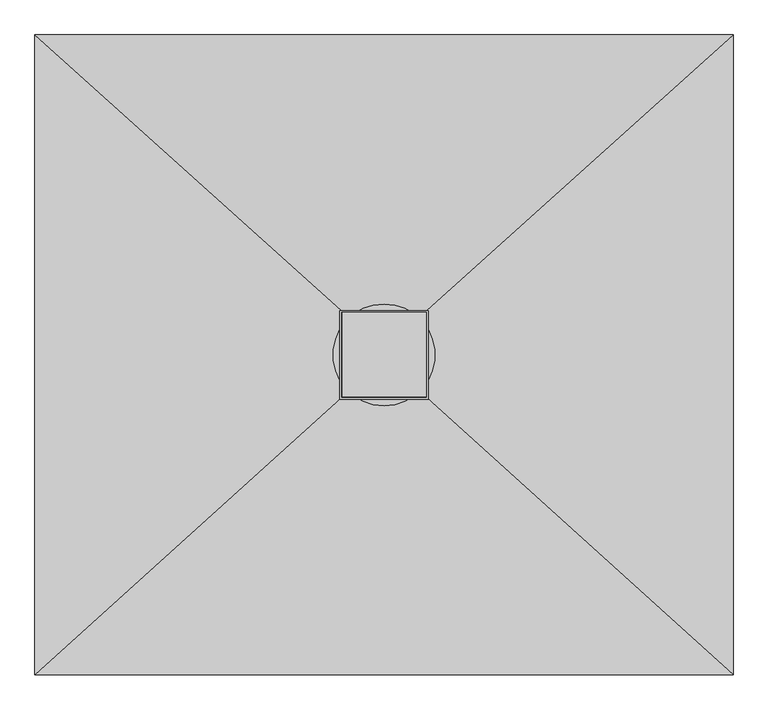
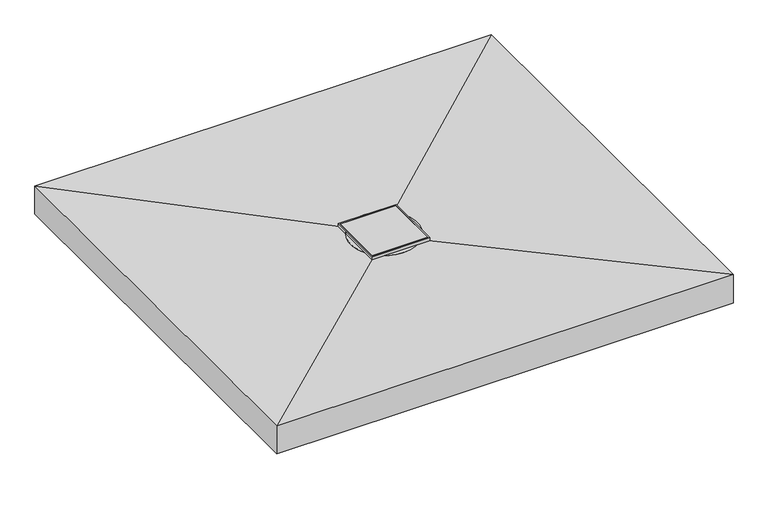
"""IFC4 building model written with IfcOpenShell, lengths in millimetres: sanitary terminal geometry, NLRS_PF_52_UN_Showerboard Aqua Brilliant_Easydrain : Aqua Brilliant onderuitloop 50mm."""

import ifcopenshell
import ifcopenshell.guid

model = None  # the IFC model being written
_history = None  # IfcOwnerHistory: only IFC2X3 demands one
_inside = {}  # id of a spatial element -> (the spatial element, [elements in it])
_under = {}  # id of a project, library or spatial element -> (it, [spatial elements below it])
_declared = {}  # id of a project -> (the project, [libraries it declares])
_typed = {}  # id of a type object -> (the type object, [elements of that type])
_made_of = {}  # id of a material, layer set ... -> (it, [elements and type objects made of it])


def new_model(schema):
    """Start an empty IFC model of exactly this schema.

    Asked for "IFC4X3", IfcOpenShell would pick the latest addendum, in which some entities
    have other attributes; the version numbers below select the first issue.
    IFC2X3 requires an IfcOwnerHistory on every rooted entity: one is made here for all.
    """
    global model, _history
    if schema == "IFC4X3":
        model = ifcopenshell.file(schema_version=(4, 3, 0, 0))
    else:
        model = ifcopenshell.file(schema=schema)
    _inside.clear()
    _under.clear()
    _declared.clear()
    _typed.clear()
    _made_of.clear()
    _history = None
    if model.schema == "IFC2X3":
        org = make("IfcOrganization", Name="unknown")
        user = make(
            "IfcPersonAndOrganization",
            ThePerson=make("IfcPerson", FamilyName="unknown"),
            TheOrganization=org,
        )
        app = make(
            "IfcApplication",
            ApplicationDeveloper=org,
            Version="unknown",
            ApplicationFullName="unknown",
            ApplicationIdentifier="unknown",
        )
        _history = make(
            "IfcOwnerHistory",
            OwningUser=user,
            OwningApplication=app,
            ChangeAction="ADDED",
            CreationDate=0,
        )
    return model


def make(cls, **values):
    """One entity of the class cls with the attributes given. An attribute that is None is left unset."""
    return model.create_entity(
        cls, **{name: value for name, value in values.items() if value is not None}
    )


def rooted(cls, **values):
    """An entity with a GlobalId (a new one), such as an element, a storey or a relation."""
    return make(cls, GlobalId=ifcopenshell.guid.new(), OwnerHistory=_history, **values)


def si_unit(unit_type, name, prefix=None):
    """IfcSIUnit, for example si_unit("LENGTHUNIT", "METRE", prefix="MILLI")."""
    return make("IfcSIUnit", UnitType=unit_type, Prefix=prefix, Name=name)


def assignment(units):
    """IfcUnitAssignment: the units of a project."""
    return None if units is None else make("IfcUnitAssignment", Units=units)


def point(xyz):
    """IfcCartesianPoint."""
    return None if xyz is None else make("IfcCartesianPoint", Coordinates=xyz)


def direction(xyz):
    """IfcDirection."""
    return None if xyz is None else make("IfcDirection", DirectionRatios=xyz)


def frame(location, z_axis=None, x_axis=None):
    """IfcAxis2Placement3D, a coordinate frame: its origin and axes. An axis left out is left unset."""
    return make(
        "IfcAxis2Placement3D",
        Location=point(location),
        Axis=direction(z_axis),
        RefDirection=direction(x_axis),
    )


def frame_2d(location, x_axis=None):
    """IfcAxis2Placement2D, a coordinate frame in the plane: its origin and x axis."""
    return make(
        "IfcAxis2Placement2D", Location=point(location), RefDirection=direction(x_axis)
    )


def origin():
    """The frame at (0, 0, 0) with its axes left unset."""
    return frame((0.0, 0.0, 0.0))


def origin_2d():
    """The frame at (0, 0) in the plane with its x axis left unset."""
    return frame_2d((0.0, 0.0))


def place(relative_to, where):
    """IfcLocalPlacement: puts the frame where relative to a parent placement (None: the world)."""
    return make(
        "IfcLocalPlacement", PlacementRelTo=relative_to, RelativePlacement=where
    )


def context(
    kind, dimensions, precision=None, world=None, true_north=None, identifier=None
):
    """IfcGeometricRepresentationContext, for example the 3D "Model" context."""
    return make(
        "IfcGeometricRepresentationContext",
        ContextIdentifier=identifier,
        ContextType=kind,
        CoordinateSpaceDimension=dimensions,
        Precision=precision,
        WorldCoordinateSystem=world,
        TrueNorth=true_north,
    )


def project(units=None, contexts=None):
    """IfcProject with its units and contexts."""
    return rooted(
        "IfcProject",
        Name="project",
        RepresentationContexts=contexts,
        UnitsInContext=assignment(units),
    )


def spatial(cls, under=None, at=None, **own):
    """A site, building, storey or space (cls), placed at a placement, below another one or the project."""
    s = rooted(cls, ObjectPlacement=at, **own)
    if under is not None:
        _under.setdefault(under.id(), (under, []))[1].append(s)
    return s


def polyline(points):
    """IfcPolyline through the points."""
    return make("IfcPolyline", Points=[point(p) for p in points])


def circle_curve(where, radius):
    """IfcCircle in the frame where."""
    return make("IfcCircle", Position=where, Radius=radius)


def trimmed(basis, trim1, trim2, sense, master):
    """IfcTrimmedCurve: the piece of a basis curve between two trims."""
    return make(
        "IfcTrimmedCurve",
        BasisCurve=basis,
        Trim1=trim1,
        Trim2=trim2,
        SenseAgreement=sense,
        MasterRepresentation=master,
    )


def segment(curve, same_sense, transition):
    """IfcCompositeCurveSegment."""
    return make(
        "IfcCompositeCurveSegment",
        Transition=transition,
        SameSense=same_sense,
        ParentCurve=curve,
    )


def composite_curve(segments, self_intersect=None):
    """IfcCompositeCurve: segments joined end to end."""
    return make("IfcCompositeCurve", Segments=segments, SelfIntersect=self_intersect)


def outline(outer, holes=None, kind="AREA"):
    """IfcArbitraryClosedProfileDef: a profile drawn as a closed curve; with holes, ...WithVoids."""
    if holes is None:
        return make("IfcArbitraryClosedProfileDef", ProfileType=kind, OuterCurve=outer)
    return make(
        "IfcArbitraryProfileDefWithVoids",
        ProfileType=kind,
        OuterCurve=outer,
        InnerCurves=holes,
    )


def extrude(swept, where, along, depth):
    """IfcExtrudedAreaSolid: the profile swept, set in the frame where, extruded along a direction by depth."""
    return make(
        "IfcExtrudedAreaSolid",
        SweptArea=swept,
        Position=where,
        ExtrudedDirection=direction(along),
        Depth=depth,
    )


def faces_of(points, faces, orient=None, outer=None):
    """IfcFace entities. A face is a list of loops; a loop is a list of indices into points, from 0.

    orient and outer hold one flag for each loop. By default every Orientation is true, the
    first loop of a face is its IfcFaceOuterBound and the others are IfcFaceBound.
    """
    made = []
    for i, loops in enumerate(faces):
        bounds = []
        for j, loop in enumerate(loops):
            is_outer = j == 0 if outer is None else outer[i][j]
            bounds.append(
                make(
                    "IfcFaceOuterBound" if is_outer else "IfcFaceBound",
                    Bound=make("IfcPolyLoop", Polygon=[points[k] for k in loop]),
                    Orientation=True if orient is None else orient[i][j],
                )
            )
        made.append(make("IfcFace", Bounds=bounds))
    return made


def faceted_brep(points, faces, orient=None, outer=None, voids=None):
    """IfcFacetedBrep: a solid bounded by flat faces; with voids (closed shells), ...WithVoids."""
    shared = [point(p) for p in points]
    hull = make("IfcClosedShell", CfsFaces=faces_of(shared, faces, orient, outer))
    if voids is None:
        return make("IfcFacetedBrep", Outer=hull)
    return make(
        "IfcFacetedBrepWithVoids",
        Outer=hull,
        Voids=[
            make(cls, CfsFaces=faces_of(shared, fs, o, b)) for cls, fs, o, b in voids
        ],
    )


def shape(context_of_items, identifier, shape_type, items):
    """IfcShapeRepresentation: the items that make up one representation, for example the "Body"."""
    return make(
        "IfcShapeRepresentation",
        ContextOfItems=context_of_items,
        RepresentationIdentifier=identifier,
        RepresentationType=shape_type,
        Items=items,
    )


def source(mapping_origin, context_of_items, identifier, shape_type, items):
    """IfcRepresentationMap: a shape defined once, which mapped items show again and again."""
    return make(
        "IfcRepresentationMap",
        MappingOrigin=mapping_origin,
        MappedRepresentation=shape(context_of_items, identifier, shape_type, items),
    )


def transform(
    local_origin,
    x_axis=None,
    y_axis=None,
    z_axis=None,
    scale=None,
    scale2=None,
    scale3=None,
    uniform=True,
):
    """IfcCartesianTransformationOperator3D, or its non-uniform kind. x_axis, y_axis, z_axis: its Axis1, 2, 3."""
    if uniform:
        return make(
            "IfcCartesianTransformationOperator3D",
            Axis1=direction(x_axis),
            Axis2=direction(y_axis),
            LocalOrigin=point(local_origin),
            Scale=scale,
            Axis3=direction(z_axis),
        )
    return make(
        "IfcCartesianTransformationOperator3DnonUniform",
        Axis1=direction(x_axis),
        Axis2=direction(y_axis),
        LocalOrigin=point(local_origin),
        Scale=scale,
        Axis3=direction(z_axis),
        Scale2=scale2,
        Scale3=scale3,
    )


def mapped(mapping_source, mapping_target):
    """IfcMappedItem: shows the shape of a source again, moved by a transform."""
    return make(
        "IfcMappedItem", MappingSource=mapping_source, MappingTarget=mapping_target
    )


def made_of(thing, what):
    """Note that an element or type object is made of a material, layer set ...; save() writes the relation."""
    if what is not None:
        _made_of.setdefault(what.id(), (what, []))[1].append(thing)
    return thing


def element(
    cls,
    number,
    at=None,
    inside=None,
    cuts=None,
    type_object=None,
    material=None,
    context=None,
    identifier="Body",
    shape_type=None,
    held_by="IfcProductDefinitionShape",
    body=None,
    shapes=None,
    **own,
):
    """One element of the class cls, such as IfcWall. Its Tag is "e" and its number.

    at: its placement. inside: the storey or other place that contains it. cuts: it is an
    opening in that element (IfcRelVoidsElement). A single representation is given by context,
    identifier, shape_type and body (its items); several are given by shapes. held_by: the class
    of the entity that holds the representations. save() writes the other relations.
    """
    e = rooted(cls, Tag="e%d" % number, ObjectPlacement=at, **own)
    if body is not None:
        shapes = [shape(context, identifier, shape_type, body)]
    if shapes is not None:
        e.Representation = make(held_by, Representations=shapes)
    if inside is not None:
        _inside.setdefault(inside.id(), (inside, []))[1].append(e)
    if cuts is not None:
        rooted(
            "IfcRelVoidsElement", RelatingBuildingElement=cuts, RelatedOpeningElement=e
        )
    if type_object is not None:
        _typed.setdefault(type_object.id(), (type_object, []))[1].append(e)
    return made_of(e, material)


def aggregate(whole, parts):
    """IfcRelAggregates: a whole, such as a stair, and the parts it consists of."""
    return rooted("IfcRelAggregates", RelatingObject=whole, RelatedObjects=parts)


def save(model, path):
    """Write the relations noted so far, then the file.

    IfcRelAggregates (storeys below a building ...), IfcRelContainedInSpatialStructure (elements
    in a storey), IfcRelDefinesByType, IfcRelAssociatesMaterial and IfcRelDeclares: one each for
    every whole, place, type object, material and project.
    """
    for whole, parts in _under.values():
        aggregate(whole, parts)
    for where, things in _inside.values():
        rooted(
            "IfcRelContainedInSpatialStructure",
            RelatedElements=things,
            RelatingStructure=where,
        )
    for kind, things in _typed.values():
        rooted("IfcRelDefinesByType", RelatedObjects=things, RelatingType=kind)
    for what, things in _made_of.values():
        rooted("IfcRelAssociatesMaterial", RelatedObjects=things, RelatingMaterial=what)
    for by, libraries in _declared.values():
        rooted("IfcRelDeclares", RelatingContext=by, RelatedDefinitions=libraries)
    model.write(path)


def plane_surface(at):
    """IfcPlane: the flat surface through the origin of the frame at, square to its z axis."""
    return make("IfcPlane", Position=at)


def cylinder_surface(at, radius):
    """IfcCylindricalSurface: all points at the distance radius from the z axis of the frame at."""
    return make("IfcCylindricalSurface", Position=at, Radius=radius)


def revolved_surface(curve, axis_point, axis_direction):
    """IfcSurfaceOfRevolution: the curve turned about the line through axis_point along axis_direction."""
    return make(
        "IfcSurfaceOfRevolution",
        SweptCurve=make("IfcArbitraryOpenProfileDef", ProfileType="CURVE", Curve=curve),
        AxisPosition=make("IfcAxis1Placement", Location=point(axis_point), Axis=direction(axis_direction)),
    )


def advanced_brep(points, edges, surfaces, faces):
    """IfcAdvancedBrep: a solid bounded by faces that lie on surfaces and meet in shared edges.

    An edge is (start, end): straight between two places in points (the first is 0);
    or (start, end, curve); or (start, end, curve, False) where it runs against its curve.
    A face is (place in surfaces, loops), or (place, loops, False) where it looks against
    its surface's normal. A loop lists edges by number (the first is 1), with a minus sign
    where the edge is run from its end to its start. The first loop is the outer one.
    """
    corners = [point(p) for p in points]
    vertices = [make("IfcVertexPoint", VertexGeometry=c) for c in corners]
    made = []
    for start, end, *more in edges:
        made.append(
            make(
                "IfcEdgeCurve",
                EdgeStart=vertices[start],
                EdgeEnd=vertices[end],
                EdgeGeometry=more[0] if more else make("IfcPolyline", Points=[corners[start], corners[end]]),
                SameSense=more[1] if len(more) > 1 else True,
            )
        )
    hull = []
    for where, loops, *sense in faces:
        bounds = []
        for j, loop in enumerate(loops):
            ring = [make("IfcOrientedEdge", EdgeElement=made[abs(k) - 1], Orientation=k > 0) for k in loop]
            bounds.append(
                make(
                    "IfcFaceOuterBound" if j == 0 else "IfcFaceBound",
                    Bound=make("IfcEdgeLoop", EdgeList=ring),
                    Orientation=True,
                )
            )
        hull.append(make("IfcAdvancedFace", Bounds=bounds, FaceSurface=surfaces[where], SameSense=sense[0] if sense else True))
    return make("IfcAdvancedBrep", Outer=make("IfcClosedShell", CfsFaces=hull))


def sanitary_terminal_54b479c2(model_context):
    return source(origin(), model_context, "Body", "SolidModel", [
        extrude(outline(composite_curve([segment(trimmed(circle_curve(origin_2d(), 25.0), [point((0.0, 25.0))], [point((0.0, -25.0))], False, "CARTESIAN"), True, "CONTINUOUS"), segment(trimmed(circle_curve(origin_2d(), 25.0), [point((0.0, -25.0))], [point((0.0, 25.0))], False, "CARTESIAN"), True, "CONTINUOUS")], self_intersect=False)), frame((0.0, 0.0, -141.0), z_axis=(0.0, 0.0, 1.0), x_axis=(1.0, 0.0, 0.0)), (0.0, 0.0, 1.0), 125.0),
        faceted_brep([(600.0, 550.0, -77.0), (600.0, -550.0, -77.0), (-600.0, -550.0, -77.0), (-600.0, 550.0, -77.0), (25.0, 0.0, -77.0), (-25.0, 0.0, -77.0), (-25.0, -50.0, -77.0), (25.0, -50.0, -77.0), (-600.0, 550.0, 1.0), (600.0, 550.0, 1.0), (-600.0, -550.0, 1.0), (600.0, -550.0, 1.0), (73.0, 76.0, -9.0), (-73.0, 76.0, -9.0), (-73.0, -73.0, -9.0), (73.0, -73.0, -9.0), (-25.0, 0.0, -29.0), (25.0, 0.0, -29.0), (-25.0, -50.0, -29.0), (25.0, -50.0, -29.0)], [[[0, 1, 2, 3], [4, 5, 6, 7]], [[0, 3, 8, 9]], [[3, 2, 10, 8]], [[2, 1, 11, 10]], [[1, 0, 9, 11]], [[12, 13, 14, 15]], [[13, 12, 9, 8]], [[14, 13, 8, 10]], [[15, 14, 10, 11]], [[12, 15, 11, 9]], [[16, 5, 4, 17]], [[18, 19, 7, 6]], [[16, 17, 19, 18]], [[17, 4, 7, 19]], [[5, 16, 18, 6]]]),
        extrude(outline(polyline([(76.0, 76.0), (76.0, -76.0), (-76.0, -76.0), (-76.0, 76.0), (76.0, 76.0)]), holes=[polyline([(73.0, 73.0), (-73.0, 73.0), (-73.0, -73.0), (73.0, -73.0), (73.0, 73.0)])]), frame((0.0, 0.0, -9.0), z_axis=(0.0, 0.0, 1.0), x_axis=(1.0, 0.0, 0.0)), (0.0, 0.0, 1.0), 9.0),
        extrude(outline(polyline([(74.0, 74.0), (74.0, -72.0), (-72.0, -72.0), (-72.0, 74.0), (74.0, 74.0)])), frame((0.0, 0.0, -9.0), z_axis=(0.0, 0.0, 1.0), x_axis=(1.0, 0.0, 0.0)), (0.0, 0.0, 1.0), 9.0),
        extrude(outline(composite_curve([segment(trimmed(circle_curve(origin_2d(), 87.5), [point((0.0, 87.5))], [point((0.0, -87.5))], False, "CARTESIAN"), True, "CONTINUOUS"), segment(trimmed(circle_curve(origin_2d(), 87.5), [point((0.0, -87.5))], [point((0.0, 87.5))], False, "CARTESIAN"), True, "CONTINUOUS")], self_intersect=False)), frame((0.0, 0.0, -11.0), z_axis=(0.0, 0.0, 1.0), x_axis=(1.0, 0.0, 0.0)), (0.0, 0.0, 1.0), 3.0),
        advanced_brep(
        [(25.0, 0.0, -77.0), (-25.0, 0.0, -77.0), (-73.0, 0.0, -77.0), (-72.9614474, 2.372172, -77.0), (-97.0710678, 26.4817925, -77.0), (-90.348995, 43.5467685, -77.0), (-57.7248547, 44.6860286, -77.0), (57.7248547, 44.6860286, -77.0), (90.348995, 43.5467685, -77.0), (97.0710678, 26.4817925, -77.0), (72.9614474, 2.372172, -77.0), (73.0, 0.0, -77.0), (-25.0, -62.3925051, -77.0), (-37.8969037, -62.3925051, -77.0), (37.8969037, -62.3925051, -77.0), (25.0, -62.3925051, -77.0), (73.0, 0.0, -9.0), (-73.0, 0.0, -9.0), (-25.0, 0.0, -9.0), (25.0, 0.0, -9.0), (85.3290047, 0.0, -43.5), (-85.3290047, 0.0, -43.5), (-73.0, 0.0, -43.5), (73.0, 0.0, -43.5), (-58.2083701, -62.3925051, -43.5), (-37.8969037, -62.3925051, -43.5), (37.8969037, -62.3925051, -43.5), (58.2083701, -62.3925051, -43.5), (85.3290047, 0.0, -46.0), (-85.3290047, 0.0, -46.0), (58.2083701, -62.3925051, -46.0), (-58.2083701, -62.3925051, -46.0), (73.0, 0.0, -46.0), (-73.0, 0.0, -46.0), (37.8969037, -62.3925051, -46.0), (-37.8969037, -62.3925051, -46.0), (-25.0, -62.3925051, -43.5), (-25.0, 0.0, -43.5), (25.0, 0.0, -43.5), (25.0, -62.3925051, -43.5), (-97.0710678, 26.4817925, -73.5), (-72.9614474, 2.372172, -73.5), (-57.7248547, 44.6860286, -73.5), (-90.348995, 43.5467685, -73.5), (97.0710678, 26.4817925, -73.5), (90.348995, 43.5467685, -73.5), (57.7248547, 44.6860286, -73.5), (72.9614474, 2.372172, -73.5)],
        [
            (0, 1, circle_curve(frame((0.0, 0.0, -77.0), z_axis=(0.0, 0.0, 1.0), x_axis=(-1.0, 0.0, 0.0)), 25.0)),
            (1, 2),
            (2, 3, circle_curve(frame((0.0, 0.0, -77.0), z_axis=(0.0, 0.0, -1.0), x_axis=(-1.0, 0.0, 0.0)), 73.0)),
            (3, 4),
            (4, 5, circle_curve(frame((-90.0, 33.5528603, -77.0), z_axis=(0.0, 0.0, -1.0), x_axis=(-1.0, 0.0, 0.0)), 10.0)),
            (5, 6),
            (6, 7, circle_curve(frame((0.0, 0.0, -77.0), z_axis=(0.0, 0.0, -1.0), x_axis=(-1.0, 0.0, 0.0)), 73.0)),
            (7, 8),
            (8, 9, circle_curve(frame((90.0, 33.5528603, -77.0), z_axis=(0.0, 0.0, -1.0), x_axis=(-1.0, 0.0, 0.0)), 10.0)),
            (9, 10),
            (10, 11, circle_curve(frame((0.0, 0.0, -77.0), z_axis=(0.0, 0.0, -1.0), x_axis=(-1.0, 0.0, 0.0)), 73.0)),
            (11, 0),
            (1, 12),
            (12, 13),
            (13, 2, circle_curve(frame((0.0, 0.0, -77.0), z_axis=(0.0, 0.0, -1.0), x_axis=(-1.0, 0.0, 0.0)), 73.0)),
            (11, 14, circle_curve(frame((0.0, 0.0, -77.0), z_axis=(0.0, 0.0, -1.0), x_axis=(-1.0, 0.0, 0.0)), 73.0)),
            (14, 15),
            (15, 0),
            (16, 17, circle_curve(frame((0.0, 0.0, -9.0), z_axis=(0.0, 0.0, 1.0), x_axis=(-1.0, 0.0, 0.0)), 73.0)),
            (17, 18),
            (18, 19, circle_curve(frame((0.0, 0.0, -9.0), z_axis=(0.0, 0.0, -1.0), x_axis=(-1.0, 0.0, 0.0)), 25.0)),
            (19, 16),
            (17, 16, circle_curve(frame((0.0, 0.0, -9.0), z_axis=(0.0, 0.0, 1.0), x_axis=(-1.0, 0.0, 0.0)), 73.0)),
            (19, 18, circle_curve(frame((0.0, 0.0, -9.0), z_axis=(0.0, 0.0, -1.0), x_axis=(-1.0, 0.0, 0.0)), 25.0)),
            (20, 21, circle_curve(frame((0.0, 0.0, -43.5), z_axis=(0.0, 0.0, 1.0), x_axis=(-1.0, 0.0, 0.0)), 85.3290047)),
            (21, 22),
            (22, 23, circle_curve(frame((0.0, 0.0, -43.5), z_axis=(0.0, 0.0, -1.0), x_axis=(-1.0, 0.0, 0.0)), 73.0)),
            (23, 20),
            (21, 24, circle_curve(frame((0.0, 0.0, -43.5), z_axis=(0.0, 0.0, 1.0), x_axis=(-1.0, 0.0, 0.0)), 85.3290047)),
            (24, 25),
            (25, 22, circle_curve(frame((0.0, 0.0, -43.5), z_axis=(0.0, 0.0, -1.0), x_axis=(-1.0, 0.0, 0.0)), 73.0)),
            (23, 26, circle_curve(frame((0.0, 0.0, -43.5), z_axis=(0.0, 0.0, -1.0), x_axis=(-1.0, 0.0, 0.0)), 73.0)),
            (26, 27),
            (27, 20, circle_curve(frame((0.0, 0.0, -43.5), z_axis=(0.0, 0.0, 1.0), x_axis=(-1.0, 0.0, 0.0)), 85.3290047)),
            (20, 28),
            (28, 29, circle_curve(frame((0.0, 0.0, -46.0), z_axis=(0.0, 0.0, 1.0), x_axis=(-1.0, 0.0, 0.0)), 85.3290047)),
            (29, 21),
            (27, 30),
            (30, 28, circle_curve(frame((0.0, 0.0, -46.0), z_axis=(0.0, 0.0, 1.0), x_axis=(-1.0, 0.0, 0.0)), 85.3290047)),
            (29, 31, circle_curve(frame((0.0, 0.0, -46.0), z_axis=(0.0, 0.0, 1.0), x_axis=(-1.0, 0.0, 0.0)), 85.3290047)),
            (31, 24),
            (28, 32),
            (32, 33, circle_curve(frame((0.0, 0.0, -46.0), z_axis=(0.0, 0.0, 1.0), x_axis=(-1.0, 0.0, 0.0)), 73.0)),
            (33, 29),
            (30, 34),
            (34, 32, circle_curve(frame((0.0, 0.0, -46.0), z_axis=(0.0, 0.0, 1.0), x_axis=(-1.0, 0.0, 0.0)), 73.0)),
            (33, 35, circle_curve(frame((0.0, 0.0, -46.0), z_axis=(0.0, 0.0, 1.0), x_axis=(-1.0, 0.0, 0.0)), 73.0)),
            (35, 31),
            (25, 36),
            (36, 37),
            (37, 38, circle_curve(frame((0.0, 0.0, -43.5), z_axis=(0.0, 0.0, 1.0), x_axis=(-1.0, 0.0, 0.0)), 25.0)),
            (38, 39),
            (39, 26),
            (26, 25, circle_curve(frame((0.0, 0.0, -43.5), z_axis=(0.0, 0.0, -1.0), x_axis=(-1.0, 0.0, 0.0)), 73.0)),
            (35, 13),
            (12, 36),
            (39, 15),
            (14, 34),
            (40, 41),
            (41, 42, circle_curve(frame((0.0, 0.0, -73.5), z_axis=(0.0, 0.0, -1.0), x_axis=(-1.0, 0.0, 0.0)), 73.0)),
            (42, 43),
            (43, 40, circle_curve(frame((-90.0, 33.5528603, -73.5), z_axis=(0.0, 0.0, 1.0), x_axis=(-1.0, 0.0, 0.0)), 10.0)),
            (44, 45, circle_curve(frame((90.0, 33.5528603, -73.5), z_axis=(0.0, 0.0, 1.0), x_axis=(-1.0, 0.0, 0.0)), 10.0)),
            (45, 46),
            (46, 47, circle_curve(frame((0.0, 0.0, -73.5), z_axis=(0.0, 0.0, -1.0), x_axis=(-1.0, 0.0, 0.0)), 73.0)),
            (47, 44),
            (40, 4),
            (3, 41),
            (42, 6),
            (5, 43),
            (0, 38),
            (38, 19),
            (18, 37),
            (37, 1),
            (16, 23),
            (22, 17),
            (32, 11),
            (10, 47),
            (46, 7),
            (2, 33),
            (44, 9),
            (8, 45),
        ],
        [
            plane_surface(frame((0.0, 0.0, -77.0), z_axis=(0.0, 0.0, -1.0), x_axis=(-1.0, 0.0, 0.0))),
            plane_surface(frame((0.0, 0.0, -9.0), z_axis=(0.0, 0.0, 1.0), x_axis=(-1.0, 0.0, 0.0))),
            plane_surface(frame((0.0, 0.0, -43.5), z_axis=(0.0, 0.0, 1.0), x_axis=(-1.0, 0.0, 0.0))),
            cylinder_surface(frame((0.0, 0.0, -12.5), z_axis=(0.0, 0.0, -1.0), x_axis=(-1.0, 0.0, 0.0)), 85.3290047),
            plane_surface(frame((0.0, 0.0, -46.0), z_axis=(0.0, 0.0, -1.0), x_axis=(-1.0, 0.0, 0.0))),
            plane_surface(frame((73.895712, -62.3925051, -43.5), z_axis=(0.0, 0.0, -1.0), x_axis=(-1.0, 0.0, 0.0))),
            plane_surface(frame((73.895712, -62.3925051, -77.0), z_axis=(0.0, -1.0, 0.0), x_axis=(-1.0, 0.0, 0.0))),
            plane_surface(frame((-72.9614474, 2.372172, -73.5), z_axis=(0.0, 0.0, 1.0), x_axis=(0.7071067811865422, -0.7071067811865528, 0.0))),
            plane_surface(frame((-97.0710678, 26.4817925, -73.5), z_axis=(-0.7071067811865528, -0.7071067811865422, 0.0), x_axis=(0.0, 0.0, -1.0))),
            plane_surface(frame((-57.7248547, 44.6860286, -73.5), z_axis=(-0.03489949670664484, 0.9993908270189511, 0.0), x_axis=(0.0, 0.0, -1.0))),
            cylinder_surface(frame((-90.0, 33.5528603, -77.0), z_axis=(0.0, 0.0, 1.0), x_axis=(-1.0, 0.0, 0.0)), 10.0),
            revolved_surface(polyline([(-25.0, 0.0, -77.0), (-25.0, 0.0, -9.0)]), (0.0, 0.0, -12.5), (0.0, 0.0, -1.0)),
            revolved_surface(polyline([(-25.0, 0.0, -43.5), (-25.0, 0.0, -9.0)]), (0.0, 0.0, -12.5), (0.0, 0.0, -1.0)),
            cylinder_surface(frame((0.0, 0.0, -12.5), z_axis=(0.0, 0.0, -1.0), x_axis=(-1.0, 0.0, 0.0)), 73.0),
            plane_surface(frame((-25.0, -250.0, -43.5), z_axis=(1.0, 0.0, 0.0), x_axis=(0.0, 1.0, 0.0))),
            plane_surface(frame((25.0, -250.0, -77.0), z_axis=(-1.0, 0.0, 0.0), x_axis=(0.0, 1.0, 0.0))),
            cylinder_surface(frame((90.0, 33.5528603, -77.0), z_axis=(0.0, 0.0, 1.0), x_axis=(-1.0, 0.0, 0.0)), 10.0),
            plane_surface(frame((90.348995, 43.5467685, -73.5), z_axis=(0.034899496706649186, 0.9993908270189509, 0.0), x_axis=(0.0, 0.0, -1.0))),
            plane_surface(frame((72.9614474, 2.372172, -73.5), z_axis=(0.7071067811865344, -0.7071067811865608, 0.0), x_axis=(0.0, 0.0, -1.0))),
        ],
        [
            (0, [[1, 2, 3, 4, 5, 6, 7, 8, 9, 10, 11, 12]]),
            (0, [[-2, 13, 14, 15]]),
            (0, [[-12, 16, 17, 18]]),
            (1, [[19, 20, 21, 22]]),
            (1, [[-20, 23, -22, 24]]),
            (2, [[25, 26, 27, 28]]),
            (2, [[-26, 29, 30, 31]]),
            (2, [[-28, 32, 33, 34]]),
            (3, [[-25, 35, 36, 37]]),
            (3, [[-35, -34, 38, 39]]),
            (3, [[-37, 40, 41, -29]]),
            (4, [[-36, 42, 43, 44]]),
            (4, [[-42, -39, 45, 46]]),
            (4, [[-44, 47, 48, -40]]),
            (5, [[49, 50, 51, 52, 53, 54]]),
            (6, [[-30, -41, -48, 55, -14, 56, -49]]),
            (6, [[-33, -53, 57, -17, 58, -45, -38]]),
            (7, [[59, 60, 61, 62]]),
            (7, [[63, 64, 65, 66]]),
            (8, [[-59, 67, -4, 68]]),
            (9, [[-61, 69, -6, 70]]),
            (10, [[-62, -70, -5, -67]]),
            (11, [[-1, 71, 72, -21, 73, 74]]),
            (12, [[-24, -72, -51, -73]]),
            (13, [[-19, 75, -27, 76]]),
            (13, [[-23, -76, -31, -54, -32, -75]]),
            (13, [[-43, 77, -11, 78, -65, 79, -7, -69, -60, -68, -3, 80]]),
            (13, [[-77, -46, -58, -16]]),
            (13, [[-80, -15, -55, -47]]),
            (14, [[-50, -56, -13, -74]]),
            (15, [[-52, -71, -18, -57]]),
            (16, [[-63, 81, -9, 82]]),
            (17, [[-64, -82, -8, -79]]),
            (18, [[-66, -78, -10, -81]]),
        ],
    ),
    ])


if __name__ == "__main__":
    model = new_model("IFC4")
    model_context = context("Model", 3, world=origin())
    ifc_project = project(units=[si_unit("LENGTHUNIT", "METRE", prefix="MILLI")], contexts=[model_context])
    site = spatial("IfcSite", under=ifc_project)
    building = spatial("IfcBuilding", under=site)
    placement = place(None, origin())
    sanitary_terminal_shape = sanitary_terminal_54b479c2(model_context)
    element("IfcSanitaryTerminal", 1, ObjectType="NLRS_PF_52_UN_Showerboard Aqua Brilliant_Easydrain : Aqua Brilliant onderuitloop 50mm", at=placement, inside=building, context=model_context, shape_type="MappedRepresentation", body=[
        mapped(sanitary_terminal_shape, transform((0.0, 0.0, 0.0), x_axis=(1.0, 0.0, 0.0), y_axis=(0.0, 1.0, 0.0), z_axis=(0.0, 0.0, 1.0))),
    ])
    save(model, "model.ifc")
